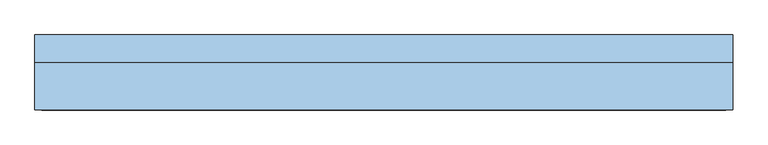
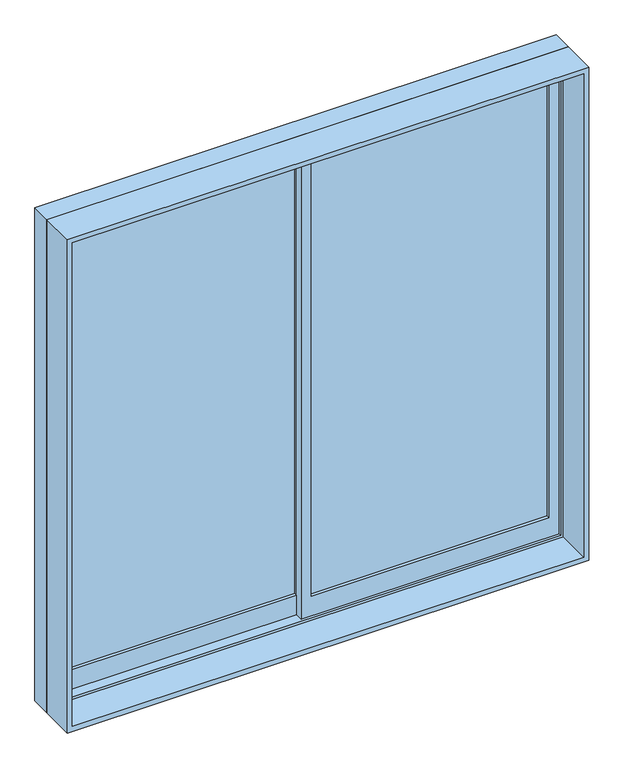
"""IFC4 building model written with IfcOpenShell, lengths in millimetres: window geometry, 窓-引違掃出2枚-内付 : AW-3 w2000 h2000."""

import ifcopenshell
import ifcopenshell.guid

model = None  # the IFC model being written
_history = None  # IfcOwnerHistory: only IFC2X3 demands one
_inside = {}  # id of a spatial element -> (the spatial element, [elements in it])
_under = {}  # id of a project, library or spatial element -> (it, [spatial elements below it])
_declared = {}  # id of a project -> (the project, [libraries it declares])
_typed = {}  # id of a type object -> (the type object, [elements of that type])
_made_of = {}  # id of a material, layer set ... -> (it, [elements and type objects made of it])


def new_model(schema):
    """Start an empty IFC model of exactly this schema.

    Asked for "IFC4X3", IfcOpenShell would pick the latest addendum, in which some entities
    have other attributes; the version numbers below select the first issue.
    IFC2X3 requires an IfcOwnerHistory on every rooted entity: one is made here for all.
    """
    global model, _history
    if schema == "IFC4X3":
        model = ifcopenshell.file(schema_version=(4, 3, 0, 0))
    else:
        model = ifcopenshell.file(schema=schema)
    _inside.clear()
    _under.clear()
    _declared.clear()
    _typed.clear()
    _made_of.clear()
    _history = None
    if model.schema == "IFC2X3":
        org = make("IfcOrganization", Name="unknown")
        user = make(
            "IfcPersonAndOrganization",
            ThePerson=make("IfcPerson", FamilyName="unknown"),
            TheOrganization=org,
        )
        app = make(
            "IfcApplication",
            ApplicationDeveloper=org,
            Version="unknown",
            ApplicationFullName="unknown",
            ApplicationIdentifier="unknown",
        )
        _history = make(
            "IfcOwnerHistory",
            OwningUser=user,
            OwningApplication=app,
            ChangeAction="ADDED",
            CreationDate=0,
        )
    return model


def make(cls, **values):
    """One entity of the class cls with the attributes given. An attribute that is None is left unset."""
    return model.create_entity(
        cls, **{name: value for name, value in values.items() if value is not None}
    )


def rooted(cls, **values):
    """An entity with a GlobalId (a new one), such as an element, a storey or a relation."""
    return make(cls, GlobalId=ifcopenshell.guid.new(), OwnerHistory=_history, **values)


def si_unit(unit_type, name, prefix=None):
    """IfcSIUnit, for example si_unit("LENGTHUNIT", "METRE", prefix="MILLI")."""
    return make("IfcSIUnit", UnitType=unit_type, Prefix=prefix, Name=name)


def assignment(units):
    """IfcUnitAssignment: the units of a project."""
    return None if units is None else make("IfcUnitAssignment", Units=units)


def point(xyz):
    """IfcCartesianPoint."""
    return None if xyz is None else make("IfcCartesianPoint", Coordinates=xyz)


def direction(xyz):
    """IfcDirection."""
    return None if xyz is None else make("IfcDirection", DirectionRatios=xyz)


def frame(location, z_axis=None, x_axis=None):
    """IfcAxis2Placement3D, a coordinate frame: its origin and axes. An axis left out is left unset."""
    return make(
        "IfcAxis2Placement3D",
        Location=point(location),
        Axis=direction(z_axis),
        RefDirection=direction(x_axis),
    )


def origin():
    """The frame at (0, 0, 0) with its axes left unset."""
    return frame((0.0, 0.0, 0.0))


def origin_with_axes():
    """The frame at (0, 0, 0) with the z axis (0, 0, 1) and the x axis (1, 0, 0) written out."""
    return frame((0.0, 0.0, 0.0), z_axis=(0.0, 0.0, 1.0), x_axis=(1.0, 0.0, 0.0))


def place(relative_to, where):
    """IfcLocalPlacement: puts the frame where relative to a parent placement (None: the world)."""
    return make(
        "IfcLocalPlacement", PlacementRelTo=relative_to, RelativePlacement=where
    )


def context(
    kind, dimensions, precision=None, world=None, true_north=None, identifier=None
):
    """IfcGeometricRepresentationContext, for example the 3D "Model" context."""
    return make(
        "IfcGeometricRepresentationContext",
        ContextIdentifier=identifier,
        ContextType=kind,
        CoordinateSpaceDimension=dimensions,
        Precision=precision,
        WorldCoordinateSystem=world,
        TrueNorth=true_north,
    )


def project(units=None, contexts=None):
    """IfcProject with its units and contexts."""
    return rooted(
        "IfcProject",
        Name="project",
        RepresentationContexts=contexts,
        UnitsInContext=assignment(units),
    )


def spatial(cls, under=None, at=None, **own):
    """A site, building, storey or space (cls), placed at a placement, below another one or the project."""
    s = rooted(cls, ObjectPlacement=at, **own)
    if under is not None:
        _under.setdefault(under.id(), (under, []))[1].append(s)
    return s


def polyline(points):
    """IfcPolyline through the points."""
    return make("IfcPolyline", Points=[point(p) for p in points])


def outline(outer, holes=None, kind="AREA"):
    """IfcArbitraryClosedProfileDef: a profile drawn as a closed curve; with holes, ...WithVoids."""
    if holes is None:
        return make("IfcArbitraryClosedProfileDef", ProfileType=kind, OuterCurve=outer)
    return make(
        "IfcArbitraryProfileDefWithVoids",
        ProfileType=kind,
        OuterCurve=outer,
        InnerCurves=holes,
    )


def extrude(swept, where, along, depth):
    """IfcExtrudedAreaSolid: the profile swept, set in the frame where, extruded along a direction by depth."""
    return make(
        "IfcExtrudedAreaSolid",
        SweptArea=swept,
        Position=where,
        ExtrudedDirection=direction(along),
        Depth=depth,
    )


def shape(context_of_items, identifier, shape_type, items):
    """IfcShapeRepresentation: the items that make up one representation, for example the "Body"."""
    return make(
        "IfcShapeRepresentation",
        ContextOfItems=context_of_items,
        RepresentationIdentifier=identifier,
        RepresentationType=shape_type,
        Items=items,
    )


def source(mapping_origin, context_of_items, identifier, shape_type, items):
    """IfcRepresentationMap: a shape defined once, which mapped items show again and again."""
    return make(
        "IfcRepresentationMap",
        MappingOrigin=mapping_origin,
        MappedRepresentation=shape(context_of_items, identifier, shape_type, items),
    )


def transform(
    local_origin,
    x_axis=None,
    y_axis=None,
    z_axis=None,
    scale=None,
    scale2=None,
    scale3=None,
    uniform=True,
):
    """IfcCartesianTransformationOperator3D, or its non-uniform kind. x_axis, y_axis, z_axis: its Axis1, 2, 3."""
    if uniform:
        return make(
            "IfcCartesianTransformationOperator3D",
            Axis1=direction(x_axis),
            Axis2=direction(y_axis),
            LocalOrigin=point(local_origin),
            Scale=scale,
            Axis3=direction(z_axis),
        )
    return make(
        "IfcCartesianTransformationOperator3DnonUniform",
        Axis1=direction(x_axis),
        Axis2=direction(y_axis),
        LocalOrigin=point(local_origin),
        Scale=scale,
        Axis3=direction(z_axis),
        Scale2=scale2,
        Scale3=scale3,
    )


def mapped(mapping_source, mapping_target):
    """IfcMappedItem: shows the shape of a source again, moved by a transform."""
    return make(
        "IfcMappedItem", MappingSource=mapping_source, MappingTarget=mapping_target
    )


def made_of(thing, what):
    """Note that an element or type object is made of a material, layer set ...; save() writes the relation."""
    if what is not None:
        _made_of.setdefault(what.id(), (what, []))[1].append(thing)
    return thing


def element(
    cls,
    number,
    at=None,
    inside=None,
    cuts=None,
    type_object=None,
    material=None,
    context=None,
    identifier="Body",
    shape_type=None,
    held_by="IfcProductDefinitionShape",
    body=None,
    shapes=None,
    **own,
):
    """One element of the class cls, such as IfcWall. Its Tag is "e" and its number.

    at: its placement. inside: the storey or other place that contains it. cuts: it is an
    opening in that element (IfcRelVoidsElement). A single representation is given by context,
    identifier, shape_type and body (its items); several are given by shapes. held_by: the class
    of the entity that holds the representations. save() writes the other relations.
    """
    e = rooted(cls, Tag="e%d" % number, ObjectPlacement=at, **own)
    if body is not None:
        shapes = [shape(context, identifier, shape_type, body)]
    if shapes is not None:
        e.Representation = make(held_by, Representations=shapes)
    if inside is not None:
        _inside.setdefault(inside.id(), (inside, []))[1].append(e)
    if cuts is not None:
        rooted(
            "IfcRelVoidsElement", RelatingBuildingElement=cuts, RelatedOpeningElement=e
        )
    if type_object is not None:
        _typed.setdefault(type_object.id(), (type_object, []))[1].append(e)
    return made_of(e, material)


def aggregate(whole, parts):
    """IfcRelAggregates: a whole, such as a stair, and the parts it consists of."""
    return rooted("IfcRelAggregates", RelatingObject=whole, RelatedObjects=parts)


def save(model, path):
    """Write the relations noted so far, then the file.

    IfcRelAggregates (storeys below a building ...), IfcRelContainedInSpatialStructure (elements
    in a storey), IfcRelDefinesByType, IfcRelAssociatesMaterial and IfcRelDeclares: one each for
    every whole, place, type object, material and project.
    """
    for whole, parts in _under.values():
        aggregate(whole, parts)
    for where, things in _inside.values():
        rooted(
            "IfcRelContainedInSpatialStructure",
            RelatedElements=things,
            RelatingStructure=where,
        )
    for kind, things in _typed.values():
        rooted("IfcRelDefinesByType", RelatedObjects=things, RelatingType=kind)
    for what, things in _made_of.values():
        rooted("IfcRelAssociatesMaterial", RelatedObjects=things, RelatingMaterial=what)
    for by, libraries in _declared.values():
        rooted("IfcRelDeclares", RelatingContext=by, RelatedDefinitions=libraries)
    model.write(path)


def window_a2a98c4b(model_context):
    return source(origin(), model_context, "Body", "SweptSolid", [
        extrude(outline(polyline([(0.0, 1000.0), (2000.0, 1000.0), (2000.0, -1000.0), (0.0, -1000.0), (0.0, 1000.0)]), holes=[polyline([(20.0, 980.0), (20.0, -980.0), (1980.0, -980.0), (1980.0, 980.0), (20.0, 980.0)])]), frame((0.0, -115.0, 0.0), z_axis=(0.0, 1.0, 0.0), x_axis=(0.0, 0.0, 1.0)), (0.0, 0.0, 1.0), 135.0),
        extrude(outline(polyline([(0.0, -1000.0), (0.0, 1000.0), (2000.0, 1000.0), (2000.0, -1000.0), (0.0, -1000.0)]), holes=[polyline([(30.0, -970.0), (1970.0, -970.0), (1970.0, 970.0), (30.0, 970.0), (30.0, -970.0)])]), frame((0.0, 20.0, 0.0), z_axis=(0.0, 1.0, 0.0), x_axis=(0.0, 0.0, 1.0)), (0.0, 0.0, 1.0), 80.0),
        extrude(outline(polyline([(930.0, 42.5), (20.0, 42.5), (20.0, 47.5), (930.0, 47.5), (930.0, 42.5)])), frame((0.0, 0.0, 90.0), z_axis=(0.0, 0.0, 1.0), x_axis=(1.0, 0.0, 0.0)), (0.0, 0.0, 1.0), 1840.0),
        extrude(outline(polyline([(1970.0, -20.0), (30.0, -20.0), (30.0, 970.0), (1970.0, 970.0), (1970.0, -20.0)]), holes=[polyline([(1930.0, 20.0), (1930.0, 930.0), (110.0, 930.0), (110.0, 20.0), (1930.0, 20.0)])]), frame((0.0, 30.0, 0.0), z_axis=(0.0, 1.0, 0.0), x_axis=(0.0, 0.0, 1.0)), (0.0, 0.0, 1.0), 30.0),
        extrude(outline(polyline([(-20.0, 72.5), (-930.0, 72.5), (-930.0, 77.5), (-20.0, 77.5), (-20.0, 72.5)])), frame((0.0, 0.0, 90.0), z_axis=(0.0, 0.0, 1.0), x_axis=(1.0, 0.0, 0.0)), (0.0, 0.0, 1.0), 1840.0),
        extrude(outline(polyline([(30.0, -970.0), (30.0, 20.0), (1970.0, 20.0), (1970.0, -970.0), (30.0, -970.0)]), holes=[polyline([(110.0, -930.0), (1930.0, -930.0), (1930.0, -20.0), (110.0, -20.0), (110.0, -930.0)])]), frame((0.0, 60.0, 0.0), z_axis=(0.0, 1.0, 0.0), x_axis=(0.0, 0.0, 1.0)), (0.0, 0.0, 1.0), 30.0),
        extrude(outline(polyline([(1000.0, 85.0), (-1000.0, 85.0), (-1000.0, 100.0), (1000.0, 100.0), (1000.0, 85.0)])), origin_with_axes(), (0.0, 0.0, 1.0), 10.0),
    ])


if __name__ == "__main__":
    model = new_model("IFC4")
    model_context = context("Model", 3, world=origin())
    ifc_project = project(units=[si_unit("LENGTHUNIT", "METRE", prefix="MILLI")], contexts=[model_context])
    site = spatial("IfcSite", under=ifc_project)
    building = spatial("IfcBuilding", under=site)
    placement = place(None, origin())
    window_shape = window_a2a98c4b(model_context)
    element("IfcWindow", 1, ObjectType="窓-引違掃出2枚-内付 : AW-3 w2000 h2000", at=placement, inside=building, context=model_context, shape_type="MappedRepresentation", body=[
        mapped(window_shape, transform((0.0, 0.0, 0.0), x_axis=(1.0, 0.0, 0.0), y_axis=(0.0, 1.0, 0.0), z_axis=(0.0, 0.0, 1.0))),
    ])
    save(model, "model.ifc")
